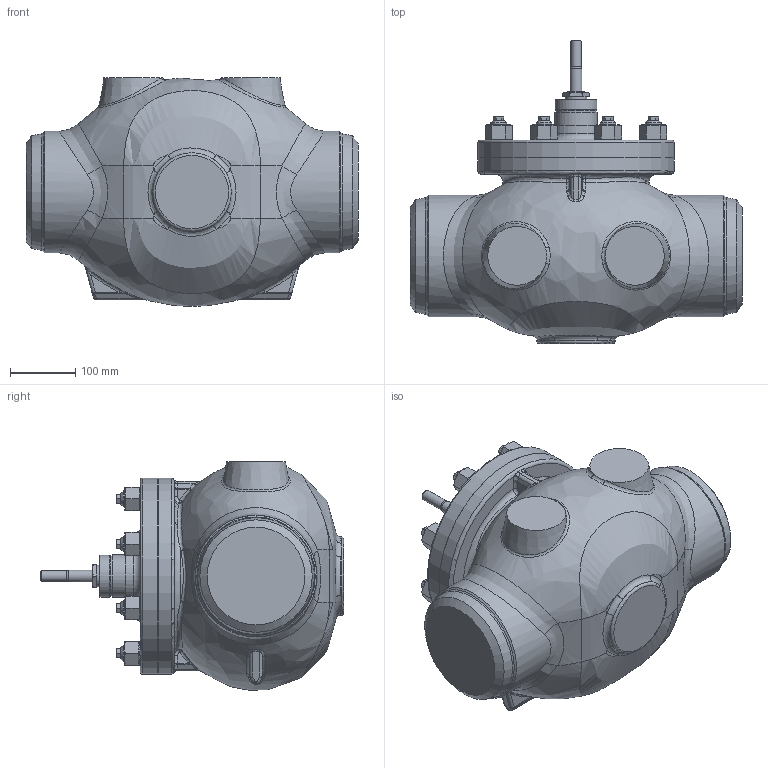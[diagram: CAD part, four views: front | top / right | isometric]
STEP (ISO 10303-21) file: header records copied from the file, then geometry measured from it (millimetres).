
FILE_DESCRIPTION(/* description */ (''),/* implementation_level */ '2;1');
FILE_NAME(/* name */ 'CV3xx_NPS_6_privarovaci.stp',/* time_stamp */ '2014-01-07T06:47:36+01:00',/* author */ (''),/* organization */ ('LDM'),/* preprocessor_version */ 'ST-DEVELOPER v11',/* originating_system */ 'SIEMENS PLM Software NX 7.0',/* authorisation */ '');
FILE_SCHEMA (('CONFIG_CONTROL_DESIGN'));
Length unit declared in the file: millimetre
Products named in the file (1): adamED63ysyh
Bounding box: 508 x 464 x 349.69 mm (x, y, z)
Volume: 29471517.6 mm3; surface area: 710652.3 mm2
Topology: 1 solids, 8 shells, 590 faces, 1312 edges, 769 vertices
Faces by surface type: cone 187, plane 181, cylinder 99, bspline 80, torus 31, sphere 12
Full cylindrical faces by diameter (mm): 16 x1, 18 x1, 24 x24, 27 x1, 33 x1, 36 x16, 61.6 x1, 64 x1, 65 x1, 75 x1, 186 x2, 200 x1, 300 x2
Entity records: 18877 total; most frequent: CARTESIAN_POINT 7402, ORIENTED_EDGE 2314, DIRECTION 2194, EDGE_CURVE 1157, AXIS2_PLACEMENT_3D 982, EDGE_LOOP 758, VERTEX_POINT 721, ADVANCED_FACE 590
